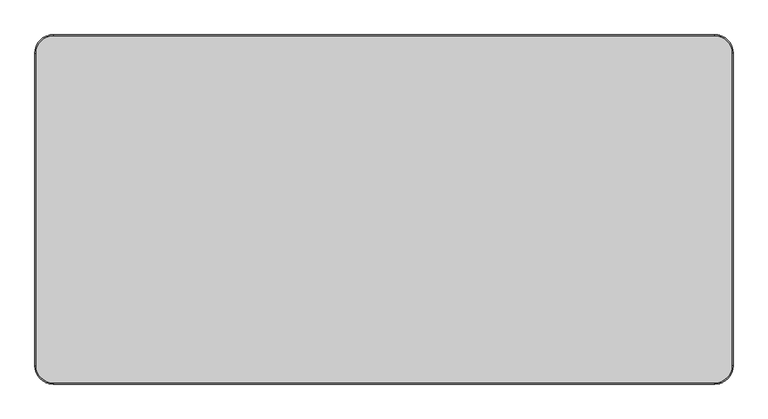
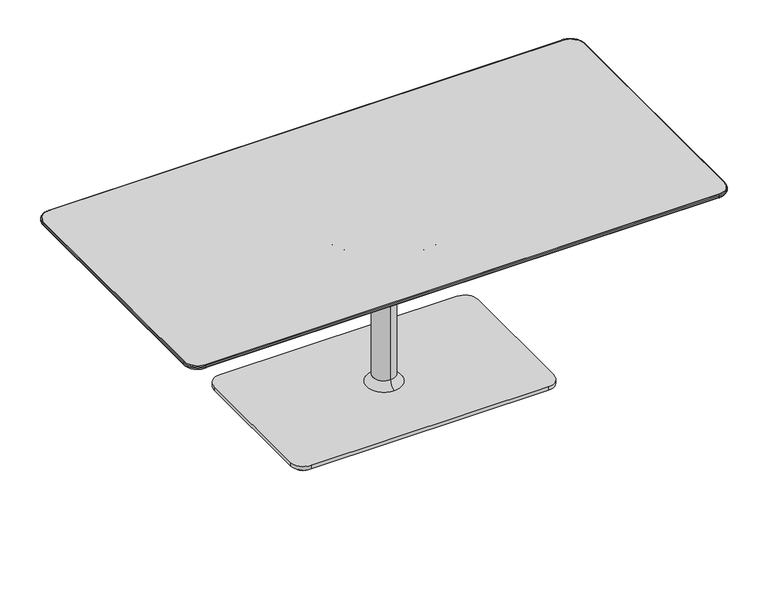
"""IFC4 building model written with IfcOpenShell, lengths in millimetres: furniture geometry, Coalesse_AM_Table_Occasional_Lagunitas_Work : 26H x 36D x 72W."""

from ifc_helpers import new_model, si_unit, point, frame, frame_2d, origin, origin_with_axes, place, context, project, spatial, polyline, circle_curve, ellipse_curve, trimmed, segment, composite_curve, outline, extrude, source, transform, mapped, element, save
from ifc_brep_helpers import plane_surface, cylinder_surface, revolved_surface, spline_surface, advanced_brep


def furniture_369bfe71(model_context):
    return source(origin(), model_context, "Body", "SolidModel", [
        advanced_brep(
        [(911.6570059, 409.7063839, 648.3724172), (867.2070059, 454.1563839, 648.3724172), (-866.5969941, 454.1563839, 648.3724172), (-911.0469941, 409.7063839, 648.3724172), (-911.0469941, -409.7063839, 648.3724172), (-866.5969941, -454.1563839, 648.3724172), (867.2070059, -454.1563839, 648.3724172), (911.6570059, -409.7063839, 648.3724172), (843.8389826, 386.3390054, 630.3099277), (843.8389826, -386.3390054, 630.3099277), (-843.2289709, -386.3390054, 630.3099277), (-843.2289709, 386.3390054, 630.3099277)],
        [
            (0, 1, circle_curve(frame((867.2070059, 409.7063839, 648.3724172), z_axis=(0.0, 0.0, 1.0), x_axis=(1.0, 0.0, 0.0)), 44.45)),
            (1, 2),
            (2, 3, circle_curve(frame((-866.5969941, 409.7063839, 648.3724172), z_axis=(0.0, 0.0, 1.0), x_axis=(1.0, 0.0, 0.0)), 44.45)),
            (3, 4),
            (4, 5, circle_curve(frame((-866.5969941, -409.7063839, 648.3724172), z_axis=(0.0, 0.0, 1.0), x_axis=(1.0, 0.0, 0.0)), 44.45)),
            (5, 6),
            (6, 7, circle_curve(frame((867.2070059, -409.7063839, 648.3724172), z_axis=(0.0, 0.0, 1.0), x_axis=(1.0, 0.0, 0.0)), 44.45)),
            (7, 0),
            (8, 9),
            (9, 10),
            (10, 11),
            (11, 8),
            (0, 8),
            (8, 1),
            (11, 2),
            (11, 3),
            (10, 4),
            (10, 5),
            (9, 6),
            (9, 7),
        ],
        [
            plane_surface(frame((0.3050059, 0.0, 648.3724172), z_axis=(0.0, 0.0, 1.0), x_axis=(-1.0, 0.0, 0.0))),
            plane_surface(frame((0.3050059, 0.0, 630.3099277), z_axis=(0.0, 0.0, -1.0), x_axis=(-1.0, 0.0, 0.0))),
            spline_surface(2, 1, [[(843.8389826, 386.3390054, 630.3099277), (911.6570059, 409.7063839, 648.3724172)], [(843.8389826, 386.3390054, 630.3099277), (911.6570058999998, 454.1563838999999, 648.3724172)], [(843.8389826, 386.3390054, 630.3099277), (867.2070059, 454.1563839, 648.3724172)]], [3, 3], [2, 2], [0.0, 1.0], [0.0, 1.0], weights=[[1.0, 1.0], [0.707106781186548, 0.707106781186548], [1.0, 1.0]]),
            plane_surface(frame((0.3050059, 386.3390054, 630.3099277), z_axis=(0.0, 0.25736805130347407, -0.9663134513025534), x_axis=(-1.0, 0.0, 0.0))),
            spline_surface(2, 1, [[(-843.2289709, 386.3390054, 630.3099277), (-866.5969941, 454.1563839, 648.3724172)], [(-843.2289709, 386.3390054, 630.3099277), (-911.0469940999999, 454.1563838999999, 648.3724172)], [(-843.2289709, 386.3390054, 630.3099277), (-911.0469941, 409.7063839, 648.3724172)]], [3, 3], [2, 2], [0.0, 1.0], [0.0, 1.0], weights=[[1.0, 1.0], [0.707106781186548, 0.707106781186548], [1.0, 1.0]]),
            plane_surface(frame((-843.2289709, 0.0, 630.3099277), z_axis=(-0.25736576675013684, 0.0, -0.9663140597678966), x_axis=(0.0, -1.0, 0.0))),
            spline_surface(2, 1, [[(-843.2289709, -386.3390054, 630.3099277), (-911.0469941, -409.7063839, 648.3724172)], [(-843.2289709, -386.3390054, 630.3099277), (-911.0469941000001, -454.15638390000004, 648.3724172)], [(-843.2289709, -386.3390054, 630.3099277), (-866.5969941, -454.1563839, 648.3724172)]], [3, 3], [2, 2], [0.0, 1.0], [0.0, 1.0], weights=[[1.0, 1.0], [0.7071067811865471, 0.7071067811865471], [1.0, 1.0]]),
            plane_surface(frame((0.3050059, -386.3390054, 630.3099277), z_axis=(0.0, -0.2573680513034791, -0.9663134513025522), x_axis=(1.0, 0.0, 0.0))),
            spline_surface(2, 1, [[(843.8389826, -386.3390054, 630.3099277), (867.2070059, -454.1563839, 648.3724172)], [(843.8389826, -386.3390054, 630.3099277), (911.6570059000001, -454.15638390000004, 648.3724172)], [(843.8389826, -386.3390054, 630.3099277), (911.6570059, -409.7063839, 648.3724172)]], [3, 3], [2, 2], [0.0, 1.0], [0.0, 1.0], weights=[[1.0, 1.0], [0.707106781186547, 0.707106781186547], [1.0, 1.0]]),
            plane_surface(frame((843.8389826, 0.0, 630.3099277), z_axis=(0.2573657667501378, 0.0, -0.9663140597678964), x_axis=(0.0, 1.0, 0.0))),
        ],
        [
            (0, [[1, 2, 3, 4, 5, 6, 7, 8]]),
            (1, [[9, 10, 11, 12]]),
            (2, [[-1, 13, 14]]),
            (3, [[-12, 15, -2, -14]]),
            (4, [[-3, -15, 16]]),
            (5, [[-11, 17, -4, -16]]),
            (6, [[-5, -17, 18]]),
            (7, [[-10, 19, -6, -18]]),
            (8, [[-7, -19, 20]]),
            (9, [[-9, -13, -8, -20]]),
        ],
    ),
        extrude(outline(composite_curve([segment(trimmed(circle_curve(frame_2d((867.2070059, 409.7063839)), 44.45), [point((867.2070059, 454.1563839))], [point((911.6570059, 409.7063839))], False, "CARTESIAN"), True, "CONTINUOUS"), segment(polyline([(911.6570059, 409.7063839), (911.6570059, -409.7063839)]), True, "CONTINUOUS"), segment(trimmed(circle_curve(frame_2d((867.2070059, -409.7063839)), 44.45), [point((911.6570059, -409.7063839))], [point((867.2070059, -454.1563839))], False, "CARTESIAN"), True, "CONTINUOUS"), segment(polyline([(867.2070059, -454.1563839), (-866.5969941, -454.1563839)]), True, "CONTINUOUS"), segment(trimmed(circle_curve(frame_2d((-866.5969941, -409.7063839)), 44.45), [point((-866.5969941, -454.1563839))], [point((-911.0469941, -409.7063839))], False, "CARTESIAN"), True, "CONTINUOUS"), segment(polyline([(-911.0469941, -409.7063839), (-911.0469941, 409.7063839)]), True, "CONTINUOUS"), segment(trimmed(circle_curve(frame_2d((-866.5969941, 409.7063839)), 44.45), [point((-911.0469941, 409.7063839))], [point((-866.5969941, 454.1563839))], False, "CARTESIAN"), True, "CONTINUOUS"), segment(polyline([(-866.5969941, 454.1563839), (867.2070059, 454.1563839)]), True, "CONTINUOUS")], self_intersect=False)), frame((0.0, 0.0, 648.3724172), z_axis=(0.0, 0.0, 1.0), x_axis=(1.0, 0.0, 0.0)), (0.0, 0.0, 1.0), 12.0275828),
        extrude(outline(composite_curve([segment(trimmed(circle_curve(frame_2d((-404.2943146, 226.8029495)), 25.4), [point((-429.6943146, 226.8029495))], [point((-378.8943146, 226.8029495))], False, "CARTESIAN"), True, "CONTINUOUS"), segment(trimmed(circle_curve(frame_2d((-404.2943146, 226.8029495)), 25.4), [point((-378.8943146, 226.8029495))], [point((-429.6943146, 226.8029495))], False, "CARTESIAN"), True, "CONTINUOUS")], self_intersect=False)), origin_with_axes(), (0.0, 0.0, 1.0), 10.6571495),
        extrude(outline(composite_curve([segment(trimmed(circle_curve(frame_2d((404.9043263, 226.8029495)), 25.4), [point((379.5043263, 226.8029495))], [point((430.3043263, 226.8029495))], False, "CARTESIAN"), True, "CONTINUOUS"), segment(trimmed(circle_curve(frame_2d((404.9043263, 226.8029495)), 25.4), [point((430.3043263, 226.8029495))], [point((379.5043263, 226.8029495))], False, "CARTESIAN"), True, "CONTINUOUS")], self_intersect=False)), origin_with_axes(), (0.0, 0.0, 1.0), 10.6571495),
        extrude(outline(composite_curve([segment(trimmed(circle_curve(frame_2d((404.9043263, -226.8029495)), 25.4), [point((379.5043263, -226.8029495))], [point((430.3043263, -226.8029495))], False, "CARTESIAN"), True, "CONTINUOUS"), segment(trimmed(circle_curve(frame_2d((404.9043263, -226.8029495)), 25.4), [point((430.3043263, -226.8029495))], [point((379.5043263, -226.8029495))], False, "CARTESIAN"), True, "CONTINUOUS")], self_intersect=False)), origin_with_axes(), (0.0, 0.0, 1.0), 10.6571495),
        extrude(outline(composite_curve([segment(trimmed(circle_curve(frame_2d((-404.2943146, -226.8029495)), 25.4), [point((-429.6943146, -226.8029495))], [point((-378.8943146, -226.8029495))], False, "CARTESIAN"), True, "CONTINUOUS"), segment(trimmed(circle_curve(frame_2d((-404.2943146, -226.8029495)), 25.4), [point((-378.8943146, -226.8029495))], [point((-429.6943146, -226.8029495))], False, "CARTESIAN"), True, "CONTINUOUS")], self_intersect=False)), origin_with_axes(), (0.0, 0.0, 1.0), 10.6571495),
        extrude(outline(composite_curve([segment(trimmed(circle_curve(frame_2d((400.3550059, 222.2481833)), 44.45), [point((400.3550059, 266.6981833))], [point((444.8050059, 222.2481833))], False, "CARTESIAN"), True, "CONTINUOUS"), segment(polyline([(444.8050059, 222.2481833), (444.8050059, -222.2481833)]), True, "CONTINUOUS"), segment(trimmed(circle_curve(frame_2d((400.3550059, -222.2481833)), 44.45), [point((444.8050059, -222.2481833))], [point((400.3550059, -266.6981833))], False, "CARTESIAN"), True, "CONTINUOUS"), segment(polyline([(400.3550059, -266.6981833), (-399.7449941, -266.6981833)]), True, "CONTINUOUS"), segment(trimmed(circle_curve(frame_2d((-399.7449941, -222.2481833)), 44.45), [point((-399.7449941, -266.6981833))], [point((-444.1949941, -222.2481833))], False, "CARTESIAN"), True, "CONTINUOUS"), segment(polyline([(-444.1949941, -222.2481833), (-444.1949941, 222.2481833)]), True, "CONTINUOUS"), segment(trimmed(circle_curve(frame_2d((-399.7449941, 222.2481833)), 44.45), [point((-444.1949941, 222.2481833))], [point((-399.7449941, 266.6981833))], False, "CARTESIAN"), True, "CONTINUOUS"), segment(polyline([(-399.7449941, 266.6981833), (400.3550059, 266.6981833)]), True, "CONTINUOUS")], self_intersect=False)), frame((0.0, 0.0, 10.6571495), z_axis=(0.0, 0.0, 1.0), x_axis=(1.0, 0.0, 0.0)), (0.0, 0.0, 1.0), 12.7000004),
        advanced_brep(
        [(-914.0930954, 409.7063839, 652.1656816), (-866.5969941, 457.2024852, 652.1656816), (-866.5969941, 454.1563839, 648.3724172), (-911.0469941, 409.7063839, 648.3724172), (-914.0930954, 409.7063839, 657.3538988), (-866.5969941, 457.2024852, 657.3538988), (-911.0469941, 409.7063839, 660.4), (-866.5969941, 454.1563839, 660.4), (-911.0469941, -409.7063839, 648.3724172), (-914.0930954, -409.7063839, 652.1656816), (-914.0930954, -409.7063839, 657.3538988), (-911.0469941, -409.7063839, 660.4), (-866.5969941, -457.2024852, 652.1656816), (-866.5969941, -454.1563839, 648.3724172), (-866.5969941, -457.2024852, 657.3538988), (-866.5969941, -454.1563839, 660.4), (867.2070059, -454.1563839, 648.3724172), (867.2070059, -457.2024852, 652.1656816), (867.2070059, -457.2024852, 657.3538988), (867.2070059, -454.1563839, 660.4), (914.7031071, -409.7063839, 652.1656816), (911.6570059, -409.7063839, 648.3724172), (914.7031071, -409.7063839, 657.3538988), (911.6570059, -409.7063839, 660.4), (911.6570059, 409.7063839, 648.3724172), (914.7031071, 409.7063839, 652.1656816), (914.7031071, 409.7063839, 657.3538988), (911.6570059, 409.7063839, 660.4), (867.2070059, 457.2024852, 652.1656816), (867.2070059, 454.1563839, 648.3724172), (867.2070059, 457.2024852, 657.3538988), (867.2070059, 454.1563839, 660.4)],
        [
            (0, 1, circle_curve(frame((-866.5969941, 409.7063839, 652.1656816), z_axis=(0.0, 0.0, -1.0), x_axis=(0.0, 1.0, 0.0)), 47.4961012)),
            (1, 2, circle_curve(frame((-866.5969941, 453.3175869, 652.1656816), z_axis=(-1.0, 0.0, 0.0), x_axis=(0.0, -1.0, 0.0)), 3.8848983)),
            (2, 3, circle_curve(frame((-866.5969941, 409.7063839, 648.3724172), z_axis=(0.0, 0.0, 1.0), x_axis=(0.0, 1.0, 0.0)), 44.45)),
            (3, 0, circle_curve(frame((-910.2081971, 409.7063839, 652.1656816), z_axis=(0.0, 1.0, 0.0), x_axis=(1.0, 0.0, 0.0)), 3.8848983)),
            (4, 5, circle_curve(frame((-866.5969941, 409.7063839, 657.3538988), z_axis=(0.0, 0.0, -1.0), x_axis=(0.0, 1.0, 0.0)), 47.4961012)),
            (5, 1),
            (0, 4),
            (6, 7, circle_curve(frame((-866.5969941, 409.7063839, 660.4), z_axis=(0.0, 0.0, -1.0), x_axis=(0.0, 1.0, 0.0)), 44.45)),
            (7, 5, circle_curve(frame((-866.5969941, 454.1563839, 657.3538988), z_axis=(-1.0, 0.0, 0.0), x_axis=(0.0, -1.0, 0.0)), 3.0461012)),
            (4, 6, circle_curve(frame((-911.0469941, 409.7063839, 657.3538988), z_axis=(0.0, 1.0, 0.0), x_axis=(1.0, 0.0, 0.0)), 3.0461012)),
            (2, 7),
            (6, 3),
            (3, 8),
            (8, 9, circle_curve(frame((-910.2081971, -409.7063839, 652.1656816), z_axis=(0.0, 1.0, 0.0), x_axis=(1.0, 0.0, 0.0)), 3.8848983)),
            (9, 0),
            (9, 10),
            (10, 4),
            (10, 11, circle_curve(frame((-911.0469941, -409.7063839, 657.3538988), z_axis=(0.0, 1.0, 0.0), x_axis=(1.0, 0.0, 0.0)), 3.0461012)),
            (11, 6),
            (11, 8),
            (12, 9, circle_curve(frame((-866.5969941, -409.7063839, 652.1656816), z_axis=(0.0, 0.0, -1.0), x_axis=(-1.0, 0.0, 0.0)), 47.4961012)),
            (8, 13, circle_curve(frame((-866.5969941, -409.7063839, 648.3724172), z_axis=(0.0, 0.0, 1.0), x_axis=(-1.0, 0.0, 0.0)), 44.45)),
            (13, 12, circle_curve(frame((-866.5969941, -453.3175869, 652.1656816), z_axis=(-1.0, 0.0, 0.0), x_axis=(0.0, 1.0, 0.0)), 3.8848983)),
            (14, 10, circle_curve(frame((-866.5969941, -409.7063839, 657.3538988), z_axis=(0.0, 0.0, -1.0), x_axis=(-1.0, 0.0, 0.0)), 47.4961012)),
            (12, 14),
            (15, 11, circle_curve(frame((-866.5969941, -409.7063839, 660.4), z_axis=(0.0, 0.0, -1.0), x_axis=(-1.0, 0.0, 0.0)), 44.45)),
            (14, 15, circle_curve(frame((-866.5969941, -454.1563839, 657.3538988), z_axis=(-1.0, 0.0, 0.0), x_axis=(0.0, 1.0, 0.0)), 3.0461012)),
            (15, 13),
            (13, 16),
            (16, 17, circle_curve(frame((867.2070059, -453.3175869, 652.1656816), z_axis=(-1.0, 0.0, 0.0), x_axis=(0.0, 1.0, 0.0)), 3.8848983)),
            (17, 12),
            (17, 18),
            (18, 14),
            (18, 19, circle_curve(frame((867.2070059, -454.1563839, 657.3538988), z_axis=(-1.0, 0.0, 0.0), x_axis=(0.0, 1.0, 0.0)), 3.0461012)),
            (19, 15),
            (19, 16),
            (20, 17, circle_curve(frame((867.2070059, -409.7063839, 652.1656816), z_axis=(0.0, 0.0, -1.0), x_axis=(0.0, -1.0, 0.0)), 47.4961012)),
            (16, 21, circle_curve(frame((867.2070059, -409.7063839, 648.3724172), z_axis=(0.0, 0.0, 1.0), x_axis=(0.0, -1.0, 0.0)), 44.45)),
            (21, 20, circle_curve(frame((910.8182088, -409.7063839, 652.1656816), z_axis=(0.0, -1.0, 0.0), x_axis=(-1.0, 0.0, 0.0)), 3.8848983)),
            (22, 18, circle_curve(frame((867.2070059, -409.7063839, 657.3538988), z_axis=(0.0, 0.0, -1.0), x_axis=(0.0, -1.0, 0.0)), 47.4961012)),
            (20, 22),
            (23, 19, circle_curve(frame((867.2070059, -409.7063839, 660.4), z_axis=(0.0, 0.0, -1.0), x_axis=(0.0, -1.0, 0.0)), 44.45)),
            (22, 23, circle_curve(frame((911.6570059, -409.7063839, 657.3538988), z_axis=(0.0, -1.0, 0.0), x_axis=(-1.0, 0.0, 0.0)), 3.0461012)),
            (23, 21),
            (21, 24),
            (24, 25, circle_curve(frame((910.8182088, 409.7063839, 652.1656816), z_axis=(0.0, -1.0, 0.0), x_axis=(-1.0, 0.0, 0.0)), 3.8848983)),
            (25, 20),
            (25, 26),
            (26, 22),
            (26, 27, circle_curve(frame((911.6570059, 409.7063839, 657.3538988), z_axis=(0.0, -1.0, 0.0), x_axis=(-1.0, 0.0, 0.0)), 3.0461012)),
            (27, 23),
            (27, 24),
            (28, 25, circle_curve(frame((867.2070059, 409.7063839, 652.1656816), z_axis=(0.0, 0.0, -1.0), x_axis=(1.0, 0.0, 0.0)), 47.4961012)),
            (24, 29, circle_curve(frame((867.2070059, 409.7063839, 648.3724172), z_axis=(0.0, 0.0, 1.0), x_axis=(1.0, 0.0, 0.0)), 44.45)),
            (29, 28, circle_curve(frame((867.2070059, 453.3175869, 652.1656816), z_axis=(1.0, 0.0, 0.0), x_axis=(0.0, -1.0, 0.0)), 3.8848983)),
            (30, 26, circle_curve(frame((867.2070059, 409.7063839, 657.3538988), z_axis=(0.0, 0.0, -1.0), x_axis=(1.0, 0.0, 0.0)), 47.4961012)),
            (28, 30),
            (31, 27, circle_curve(frame((867.2070059, 409.7063839, 660.4), z_axis=(0.0, 0.0, -1.0), x_axis=(1.0, 0.0, 0.0)), 44.45)),
            (30, 31, circle_curve(frame((867.2070059, 454.1563839, 657.3538988), z_axis=(1.0, 0.0, 0.0), x_axis=(0.0, -1.0, 0.0)), 3.0461012)),
            (31, 29),
            (29, 2),
            (1, 28),
            (5, 30),
            (7, 31),
        ],
        [
            revolved_surface(trimmed(ellipse_curve(frame((-866.5969941, 453.3175869, 652.1656816), z_axis=(1.0, 0.0, 0.0), x_axis=(0.0, -1.0, 0.0)), 3.8848983, 3.8848983), [point((-866.5969941, 454.1563839, 648.3724172))], [point((-866.5969941, 457.2024852, 652.1656816))], True, "CARTESIAN"), (-866.5969941, 409.7063839, 0.0), (0.0, 0.0, 1.0)),
            cylinder_surface(frame((-866.5969941, 409.7063839, 0.0), z_axis=(0.0, 0.0, 1.0), x_axis=(0.0, 1.0, 0.0)), 47.4961012),
            revolved_surface(trimmed(ellipse_curve(frame((-866.5969941, 454.1563839, 657.3538988), z_axis=(1.0, 0.0, 0.0), x_axis=(0.0, -1.0, 0.0)), 3.0461012, 3.0461012), [point((-866.5969941, 457.2024852, 657.3538988))], [point((-866.5969941, 454.1563839, 660.4))], True, "CARTESIAN"), (-866.5969941, 409.7063839, 0.0), (0.0, 0.0, 1.0)),
            revolved_surface(polyline([(-866.5969941, 454.1563839, 660.4), (-866.5969941, 454.1563839, 648.3724172)]), (-866.5969941, 409.7063839, 0.0), (0.0, 0.0, 1.0)),
            cylinder_surface(frame((-910.2081971, 409.7063839, 652.1656816), z_axis=(0.0, 1.0, 0.0), x_axis=(1.0, 0.0, 0.0)), 3.8848983),
            plane_surface(frame((-914.0930954, 409.7063839, 652.1656816), z_axis=(-1.0, 0.0, 0.0), x_axis=(0.0, -1.0, 0.0))),
            cylinder_surface(frame((-911.0469941, 409.7063839, 657.3538988), z_axis=(0.0, 1.0, 0.0), x_axis=(1.0, 0.0, 0.0)), 3.0461012),
            plane_surface(frame((-911.0469941, 409.7063839, 660.4), z_axis=(1.0, 0.0, 0.0), x_axis=(0.0, -1.0, 0.0))),
            revolved_surface(trimmed(ellipse_curve(frame((-910.2081971, -409.7063839, 652.1656816), z_axis=(0.0, 1.0, 0.0), x_axis=(1.0, 0.0, 0.0)), 3.8848983, 3.8848983), [point((-911.0469941, -409.7063839, 648.3724172))], [point((-914.0930954, -409.7063839, 652.1656816))], True, "CARTESIAN"), (-866.5969941, -409.7063839, 0.0), (0.0, 0.0, 1.0)),
            cylinder_surface(frame((-866.5969941, -409.7063839, 0.0), z_axis=(0.0, 0.0, 1.0), x_axis=(-1.0, 0.0, 0.0)), 47.4961012),
            revolved_surface(trimmed(ellipse_curve(frame((-911.0469941, -409.7063839, 657.3538988), z_axis=(0.0, 1.0, 0.0), x_axis=(1.0, 0.0, 0.0)), 3.0461012, 3.0461012), [point((-914.0930954, -409.7063839, 657.3538988))], [point((-911.0469941, -409.7063839, 660.4))], True, "CARTESIAN"), (-866.5969941, -409.7063839, 0.0), (0.0, 0.0, 1.0)),
            revolved_surface(polyline([(-911.0469941, -409.7063839, 660.4), (-911.0469941, -409.7063839, 648.3724172)]), (-866.5969941, -409.7063839, 0.0), (0.0, 0.0, 1.0)),
            cylinder_surface(frame((-866.5969941, -453.3175869, 652.1656816), z_axis=(-1.0, 0.0, 0.0), x_axis=(0.0, 1.0, 0.0)), 3.8848983),
            plane_surface(frame((-866.5969941, -457.2024852, 652.1656816), z_axis=(0.0, -1.0, 0.0), x_axis=(1.0, 0.0, 0.0))),
            cylinder_surface(frame((-866.5969941, -454.1563839, 657.3538988), z_axis=(-1.0, 0.0, 0.0), x_axis=(0.0, 1.0, 0.0)), 3.0461012),
            plane_surface(frame((-866.5969941, -454.1563839, 660.4), z_axis=(0.0, 1.0, 0.0), x_axis=(1.0, 0.0, 0.0))),
            revolved_surface(trimmed(ellipse_curve(frame((867.2070059, -453.3175869, 652.1656816), z_axis=(-1.0, 0.0, 0.0), x_axis=(0.0, 1.0, 0.0)), 3.8848983, 3.8848983), [point((867.2070059, -454.1563839, 648.3724172))], [point((867.2070059, -457.2024852, 652.1656816))], True, "CARTESIAN"), (867.2070059, -409.7063839, 0.0), (0.0, 0.0, 1.0)),
            cylinder_surface(frame((867.2070059, -409.7063839, 0.0), z_axis=(0.0, 0.0, 1.0), x_axis=(0.0, -1.0, 0.0)), 47.4961012),
            revolved_surface(trimmed(ellipse_curve(frame((867.2070059, -454.1563839, 657.3538988), z_axis=(-1.0, 0.0, 0.0), x_axis=(0.0, 1.0, 0.0)), 3.0461012, 3.0461012), [point((867.2070059, -457.2024852, 657.3538988))], [point((867.2070059, -454.1563839, 660.4))], True, "CARTESIAN"), (867.2070059, -409.7063839, 0.0), (0.0, 0.0, 1.0)),
            revolved_surface(polyline([(867.2070059, -454.1563839, 660.4), (867.2070059, -454.1563839, 648.3724172)]), (867.2070059, -409.7063839, 0.0), (0.0, 0.0, 1.0)),
            cylinder_surface(frame((910.8182088, -409.7063839, 652.1656816), z_axis=(0.0, -1.0, 0.0), x_axis=(-1.0, 0.0, 0.0)), 3.8848983),
            plane_surface(frame((914.7031071, -409.7063839, 652.1656816), z_axis=(1.0, 0.0, 0.0), x_axis=(0.0, 1.0, 0.0))),
            cylinder_surface(frame((911.6570059, -409.7063839, 657.3538988), z_axis=(0.0, -1.0, 0.0), x_axis=(-1.0, 0.0, 0.0)), 3.0461012),
            plane_surface(frame((911.6570059, -409.7063839, 660.4), z_axis=(-1.0, 0.0, 0.0), x_axis=(0.0, 1.0, 0.0))),
            revolved_surface(trimmed(ellipse_curve(frame((910.8182088, 409.7063839, 652.1656816), z_axis=(0.0, -1.0, 0.0), x_axis=(-1.0, 0.0, 0.0)), 3.8848983, 3.8848983), [point((911.6570059, 409.7063839, 648.3724172))], [point((914.7031071, 409.7063839, 652.1656816))], True, "CARTESIAN"), (867.2070059, 409.7063839, 0.0), (0.0, 0.0, 1.0)),
            cylinder_surface(frame((867.2070059, 409.7063839, 0.0), z_axis=(0.0, 0.0, 1.0), x_axis=(1.0, 0.0, 0.0)), 47.4961012),
            revolved_surface(trimmed(ellipse_curve(frame((911.6570059, 409.7063839, 657.3538988), z_axis=(0.0, -1.0, 0.0), x_axis=(-1.0, 0.0, 0.0)), 3.0461012, 3.0461012), [point((914.7031071, 409.7063839, 657.3538988))], [point((911.6570059, 409.7063839, 660.4))], True, "CARTESIAN"), (867.2070059, 409.7063839, 0.0), (0.0, 0.0, 1.0)),
            revolved_surface(polyline([(911.6570059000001, 409.7063839, 660.4), (911.6570059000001, 409.7063839, 648.3724172)]), (867.2070059, 409.7063839, 0.0), (0.0, 0.0, 1.0)),
            cylinder_surface(frame((867.2070059, 453.3175869, 652.1656816), z_axis=(1.0, 0.0, 0.0), x_axis=(0.0, -1.0, 0.0)), 3.8848983),
            plane_surface(frame((867.2070059, 457.2024852, 652.1656816), z_axis=(0.0, 1.0, 0.0), x_axis=(-1.0, 0.0, 0.0))),
            cylinder_surface(frame((867.2070059, 454.1563839, 657.3538988), z_axis=(1.0, 0.0, 0.0), x_axis=(0.0, -1.0, 0.0)), 3.0461012),
            plane_surface(frame((867.2070059, 454.1563839, 660.4), z_axis=(0.0, -1.0, 0.0), x_axis=(-1.0, 0.0, 0.0))),
        ],
        [
            (0, [[1, 2, 3, 4]]),
            (1, [[5, 6, -1, 7]]),
            (2, [[8, 9, -5, 10]]),
            (3, [[-3, 11, -8, 12]]),
            (4, [[-4, 13, 14, 15]]),
            (5, [[-7, -15, 16, 17]]),
            (6, [[-10, -17, 18, 19]]),
            (7, [[-12, -19, 20, -13]]),
            (8, [[21, -14, 22, 23]]),
            (9, [[24, -16, -21, 25]]),
            (10, [[26, -18, -24, 27]]),
            (11, [[-22, -20, -26, 28]]),
            (12, [[-23, 29, 30, 31]]),
            (13, [[-25, -31, 32, 33]]),
            (14, [[-27, -33, 34, 35]]),
            (15, [[-28, -35, 36, -29]]),
            (16, [[37, -30, 38, 39]]),
            (17, [[40, -32, -37, 41]]),
            (18, [[42, -34, -40, 43]]),
            (19, [[-38, -36, -42, 44]]),
            (20, [[-39, 45, 46, 47]]),
            (21, [[-41, -47, 48, 49]]),
            (22, [[-43, -49, 50, 51]]),
            (23, [[-44, -51, 52, -45]]),
            (24, [[53, -46, 54, 55]]),
            (25, [[56, -48, -53, 57]]),
            (26, [[58, -50, -56, 59]]),
            (27, [[-54, -52, -58, 60]]),
            (28, [[-55, 61, -2, 62]]),
            (29, [[-57, -62, -6, 63]]),
            (30, [[-59, -63, -9, 64]]),
            (31, [[-60, -64, -11, -61]]),
        ],
    ),
        advanced_brep(
        [(0.3050059, -37.9287895, 500.8567695), (0.3050059, 37.9287895, 500.8567695), (0.3050059, 37.9287895, 50.0429711), (0.3050059, -37.9287895, 50.0429711), (0.3050059, -59.3395816, 538.8698908), (0.3050059, 59.3395816, 538.8698908), (0.3050059, -197.9068019, 622.8534968), (0.3050059, 197.9068019, 622.8534968), (0.3050059, -212.4265152, 626.9101307), (0.3050059, 212.4265152, 626.9101307), (0.3050059, -226.4292749, 626.9101307), (0.3050059, 226.4292749, 626.9101307), (0.3050059, -228.4774392, 630.3099277), (0.3050059, 228.4774392, 630.3099277), (0.3050059, 0.0, 630.3099277), (0.3050059, -60.2304855, 23.3571499), (0.3050059, 60.2304855, 23.3571499), (0.3050059, 0.0, 23.3571499)],
        [
            (0, 1, circle_curve(frame((0.3050059, 0.0, 500.8567695), z_axis=(0.0, 0.0, -1.0), x_axis=(0.0, 1.0, 0.0)), 37.9287895)),
            (1, 2),
            (2, 3, circle_curve(frame((0.3050059, 0.0, 50.0429711), z_axis=(0.0, 0.0, 1.0), x_axis=(0.0, 1.0, 0.0)), 37.9287895)),
            (3, 0),
            (1, 0, circle_curve(frame((0.3050059, 0.0, 500.8567695), z_axis=(0.0, 0.0, -1.0), x_axis=(0.0, 1.0, 0.0)), 37.9287895)),
            (3, 2, circle_curve(frame((0.3050059, 0.0, 50.0429711), z_axis=(0.0, 0.0, 1.0), x_axis=(0.0, 1.0, 0.0)), 37.9287895)),
            (4, 5, circle_curve(frame((0.3050059, 0.0, 538.8698908), z_axis=(0.0, 0.0, -1.0), x_axis=(0.0, 1.0, 0.0)), 59.3395816)),
            (5, 1, circle_curve(frame((0.3050059, 82.3787895, 500.8567695), z_axis=(1.0, 0.0, 0.0), x_axis=(0.0, 1.0, 0.0)), 44.45)),
            (0, 4, circle_curve(frame((0.3050059, -82.3787895, 500.8567695), z_axis=(1.0, 0.0, 0.0), x_axis=(0.0, -1.0, 0.0)), 44.45)),
            (5, 4, circle_curve(frame((0.3050059, 0.0, 538.8698908), z_axis=(0.0, 0.0, -1.0), x_axis=(0.0, 1.0, 0.0)), 59.3395816)),
            (6, 7, circle_curve(frame((0.3050059, 0.0, 622.8534968), z_axis=(0.0, 0.0, -1.0), x_axis=(0.0, 1.0, 0.0)), 197.9068019)),
            (7, 5),
            (4, 6),
            (7, 6, circle_curve(frame((0.3050059, 0.0, 622.8534968), z_axis=(0.0, 0.0, -1.0), x_axis=(0.0, 1.0, 0.0)), 197.9068019)),
            (8, 9, circle_curve(frame((0.3050059, 0.0, 626.9101307), z_axis=(0.0, 0.0, -1.0), x_axis=(0.0, 1.0, 0.0)), 212.4265152)),
            (9, 7, circle_curve(frame((0.3050059, 212.4265152, 598.8969605), z_axis=(1.0, 0.0, 0.0), x_axis=(0.0, 1.0, 0.0)), 28.0131702)),
            (6, 8, circle_curve(frame((0.3050059, -212.4265152, 598.8969605), z_axis=(1.0, 0.0, 0.0), x_axis=(0.0, -1.0, 0.0)), 28.0131702)),
            (9, 8, circle_curve(frame((0.3050059, 0.0, 626.9101307), z_axis=(0.0, 0.0, -1.0), x_axis=(0.0, 1.0, 0.0)), 212.4265152)),
            (10, 11, circle_curve(frame((0.3050059, 0.0, 626.9101307), z_axis=(0.0, 0.0, -1.0), x_axis=(0.0, 1.0, 0.0)), 226.4292749)),
            (11, 9),
            (8, 10),
            (11, 10, circle_curve(frame((0.3050059, 0.0, 626.9101307), z_axis=(0.0, 0.0, -1.0), x_axis=(0.0, 1.0, 0.0)), 226.4292749)),
            (12, 13, circle_curve(frame((0.3050059, 0.0, 630.3099277), z_axis=(0.0, 0.0, -1.0), x_axis=(0.0, 1.0, 0.0)), 228.4774392)),
            (13, 11, circle_curve(frame((0.3050059, 226.4292749, 629.2269744), z_axis=(-1.0, 0.0, 0.0), x_axis=(0.0, 1.0, 0.0)), 2.3168437)),
            (10, 12, circle_curve(frame((0.3050059, -226.4292749, 629.2269744), z_axis=(-1.0, 0.0, 0.0), x_axis=(0.0, -1.0, 0.0)), 2.3168437)),
            (13, 12, circle_curve(frame((0.3050059, 0.0, 630.3099277), z_axis=(0.0, 0.0, -1.0), x_axis=(0.0, 1.0, 0.0)), 228.4774392)),
            (14, 13),
            (12, 14),
            (15, 16, circle_curve(frame((0.3050059, 0.0, 23.3571499), z_axis=(0.0, 0.0, -1.0), x_axis=(0.0, 1.0, 0.0)), 60.2304855)),
            (16, 17),
            (17, 15),
            (16, 15, circle_curve(frame((0.3050059, 0.0, 23.3571499), z_axis=(0.0, 0.0, -1.0), x_axis=(0.0, 1.0, 0.0)), 60.2304855)),
            (2, 16, circle_curve(frame((0.3050059, 65.045532, 50.0429711), z_axis=(1.0, 0.0, 0.0), x_axis=(0.0, 1.0, 0.0)), 27.1167425)),
            (15, 3, circle_curve(frame((0.3050059, -65.045532, 50.0429711), z_axis=(1.0, 0.0, 0.0), x_axis=(0.0, -1.0, 0.0)), 27.1167425)),
        ],
        [
            cylinder_surface(frame((0.3050059, 0.0, 738.2745102), z_axis=(0.0, 0.0, 1.0), x_axis=(0.0, 1.0, 0.0)), 37.9287895),
            revolved_surface(trimmed(ellipse_curve(frame((0.3050059, 82.3787895, 500.8567695), z_axis=(-1.0, 0.0, 0.0), x_axis=(0.0, 1.0, 0.0)), 44.45, 44.45), [point((0.3050059, 37.9287895, 500.8567695))], [point((0.3050059, 59.3395816, 538.8698908))], True, "CARTESIAN"), (0.3050059, 0.0, 738.2745102), (0.0, 0.0, 1.0)),
            revolved_surface(polyline([(0.3050059, 59.3395816, 538.8698908), (0.3050059, 197.9068019, 622.8534968)]), (0.3050059, 0.0, 738.2745102), (0.0, 0.0, 1.0)),
            revolved_surface(trimmed(ellipse_curve(frame((0.3050059, 212.4265152, 598.8969605), z_axis=(-1.0, 0.0, 0.0), x_axis=(0.0, 1.0, 0.0)), 28.0131702, 28.0131702), [point((0.3050059, 197.9068019, 622.8534968))], [point((0.3050059, 212.4265152, 626.9101307))], True, "CARTESIAN"), (0.3050059, 0.0, 738.2745102), (0.0, 0.0, 1.0)),
            plane_surface(frame((0.3050059, 0.0, 626.9101307), z_axis=(0.0, 0.0, -1.0), x_axis=(0.0, 1.0, 0.0))),
            revolved_surface(trimmed(ellipse_curve(frame((0.3050059, 226.4292749, 629.2269744), z_axis=(1.0, 0.0, 0.0), x_axis=(0.0, 1.0, 0.0)), 2.3168437, 2.3168437), [point((0.3050059, 226.4292749, 626.9101307))], [point((0.3050059, 228.4774392, 630.3099277))], True, "CARTESIAN"), (0.3050059, 0.0, 738.2745102), (0.0, 0.0, 1.0)),
            plane_surface(frame((0.3050059, 0.0, 630.3099277), z_axis=(0.0, 0.0, 1.0), x_axis=(0.0, 1.0, 0.0))),
            plane_surface(frame((0.3050059, 0.0, 23.3571499), z_axis=(0.0, 0.0, -1.0), x_axis=(0.0, 1.0, 0.0))),
            revolved_surface(trimmed(ellipse_curve(frame((0.3050059, 65.045532, 50.0429711), z_axis=(-1.0, 0.0, 0.0), x_axis=(0.0, 1.0, 0.0)), 27.1167425, 27.1167425), [point((0.3050059, 60.2304855, 23.3571499))], [point((0.3050059, 37.9287895, 50.0429711))], True, "CARTESIAN"), (0.3050059, 0.0, 738.2745102), (0.0, 0.0, 1.0)),
        ],
        [
            (0, [[1, 2, 3, 4]]),
            (0, [[5, -4, 6, -2]]),
            (1, [[7, 8, -1, 9]]),
            (1, [[10, -9, -5, -8]]),
            (2, [[11, 12, -7, 13]]),
            (2, [[14, -13, -10, -12]]),
            (3, [[15, 16, -11, 17]]),
            (3, [[18, -17, -14, -16]]),
            (4, [[19, 20, -15, 21]]),
            (4, [[22, -21, -18, -20]]),
            (5, [[23, 24, -19, 25]]),
            (5, [[26, -25, -22, -24]]),
            (6, [[27, -23, 28]]),
            (6, [[-28, -26, -27]]),
            (7, [[29, 30, 31]]),
            (7, [[32, -31, -30]]),
            (8, [[-3, 33, -29, 34]]),
            (8, [[-6, -34, -32, -33]]),
        ],
    ),
    ])


if __name__ == "__main__":
    model = new_model("IFC4")
    model_context = context("Model", 3, world=origin())
    ifc_project = project(units=[si_unit("LENGTHUNIT", "METRE", prefix="MILLI")], contexts=[model_context])
    site = spatial("IfcSite", under=ifc_project)
    building = spatial("IfcBuilding", under=site)
    placement = place(None, origin())
    furniture_shape = furniture_369bfe71(model_context)
    element("IfcFurniture", 1, ObjectType="Coalesse_AM_Table_Occasional_Lagunitas_Work : 26H x 36D x 72W", at=placement, inside=building, context=model_context, shape_type="MappedRepresentation", body=[
        mapped(furniture_shape, transform((0.0, 0.0, 0.0), x_axis=(1.0, 0.0, 0.0), y_axis=(0.0, 1.0, 0.0), z_axis=(0.0, 0.0, 1.0))),
    ])
    save(model, "model.ifc")
